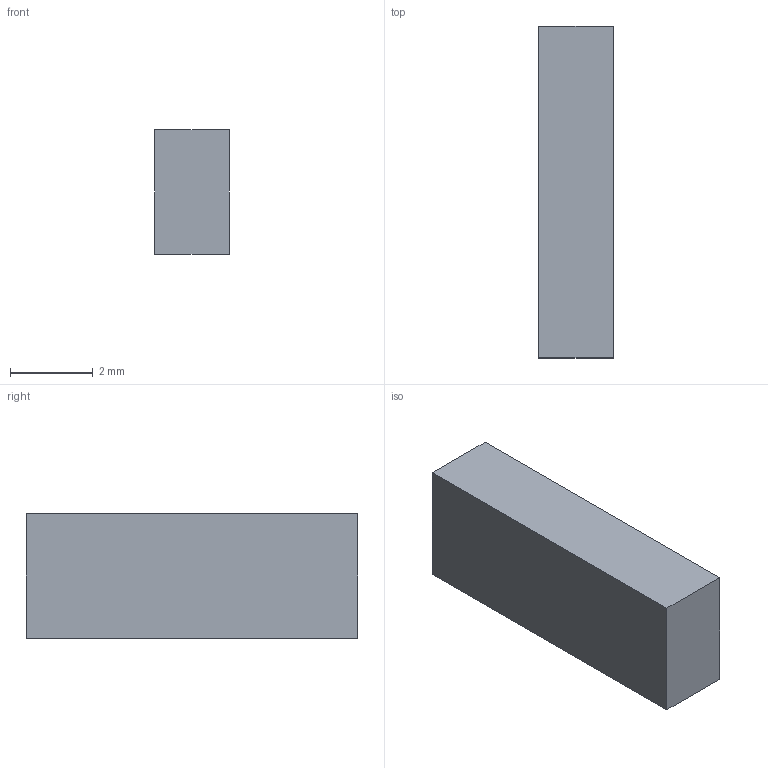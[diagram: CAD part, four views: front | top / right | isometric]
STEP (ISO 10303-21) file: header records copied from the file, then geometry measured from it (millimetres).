
FILE_DESCRIPTION(('Open CASCADE Model'),'2;1');
FILE_NAME('Open CASCADE Shape Model','2026-11-20T22:44:44',('Author'),( 'Open CASCADE'),'Open CASCADE STEP processor 7.8','Open CASCADE 7.8' ,'Unknown');
FILE_SCHEMA(('AUTOMOTIVE_DESIGN { 1 0 10303 214 1 1 1 1 }'));
Length unit declared in the file: millimetre
Products named in the file (1): Open CASCADE STEP translator 7.8 13
Bounding box: 1.8 x 8 x 3 mm (x, y, z)
Volume: 43.2 mm3; surface area: 87.6 mm2
Topology: 1 solids, 1 shells, 6 faces, 12 edges, 8 vertices
Faces by surface type: plane 6
Entity records: 322 total; most frequent: CARTESIAN_POINT 51, DIRECTION 50, LINE 36, VECTOR 36, ORIENTED_EDGE 24, PCURVE 24, DEFINITIONAL_REPRESENTATION 24, EDGE_CURVE 12
